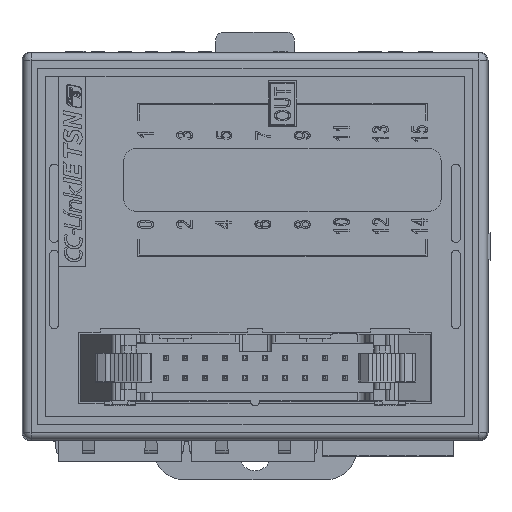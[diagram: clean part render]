
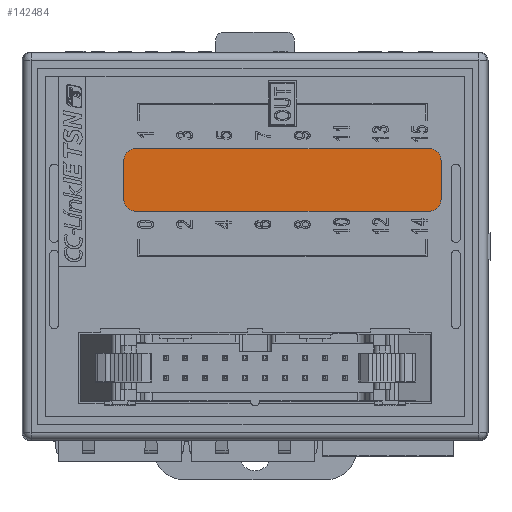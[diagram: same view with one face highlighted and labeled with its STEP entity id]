
A CAD part, top view. The second image highlights one B-rep face of the part: STEP entity #142484.
In plain terms, the highlighted planar face has unit normal (0, 0, 1).
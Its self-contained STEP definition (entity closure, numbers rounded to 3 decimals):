
#40429=DIRECTION('',(-1.,0.,0.));
#40430=VECTOR('',#40429,37.5);
#40431=CARTESIAN_POINT('',(22.25,12.5,30.9));
#40432=LINE('',#40431,#40430);
#40433=CARTESIAN_POINT('',(22.25,11.,30.9));
#40434=DIRECTION('',(0.,0.,1.));
#40435=DIRECTION('',(1.,0.,0.));
#40436=AXIS2_PLACEMENT_3D('',#40433,#40434,#40435);
#40438=DIRECTION('',(0.,1.,0.));
#40439=VECTOR('',#40438,5.);
#40440=CARTESIAN_POINT('',(23.75,6.,30.9));
#40441=LINE('',#40440,#40439);
#40442=CARTESIAN_POINT('',(22.25,6.,30.9));
#40443=DIRECTION('',(0.,0.,1.));
#40444=DIRECTION('',(0.,-1.,0.));
#40445=AXIS2_PLACEMENT_3D('',#40442,#40443,#40444);
#40447=DIRECTION('',(1.,0.,0.));
#40448=VECTOR('',#40447,37.5);
#40449=CARTESIAN_POINT('',(-15.25,4.5,30.9));
#40450=LINE('',#40449,#40448);
#40451=CARTESIAN_POINT('',(-15.25,6.,30.9));
#40452=DIRECTION('',(0.,0.,1.));
#40453=DIRECTION('',(-1.,0.,0.));
#40454=AXIS2_PLACEMENT_3D('',#40451,#40452,#40453);
#40456=DIRECTION('',(0.,-1.,0.));
#40457=VECTOR('',#40456,5.);
#40458=CARTESIAN_POINT('',(-16.75,11.,30.9));
#40459=LINE('',#40458,#40457);
#40460=CARTESIAN_POINT('',(-15.25,11.,30.9));
#40461=DIRECTION('',(0.,0.,1.));
#40462=DIRECTION('',(0.,1.,0.));
#40463=AXIS2_PLACEMENT_3D('',#40460,#40461,#40462);
#54853=CARTESIAN_POINT('',(-15.25,12.5,30.9));
#54854=VERTEX_POINT('',#54853);
#54855=CARTESIAN_POINT('',(22.25,12.5,30.9));
#54856=VERTEX_POINT('',#54855);
#54857=CARTESIAN_POINT('',(23.75,11.,30.9));
#54858=VERTEX_POINT('',#54857);
#54859=CARTESIAN_POINT('',(23.75,6.,30.9));
#54860=VERTEX_POINT('',#54859);
#54861=CARTESIAN_POINT('',(22.25,4.5,30.9));
#54862=VERTEX_POINT('',#54861);
#54863=CARTESIAN_POINT('',(-15.25,4.5,30.9));
#54864=VERTEX_POINT('',#54863);
#54865=CARTESIAN_POINT('',(-16.75,6.,30.9));
#54866=VERTEX_POINT('',#54865);
#54867=CARTESIAN_POINT('',(-16.75,11.,30.9));
#54868=VERTEX_POINT('',#54867);
#142469=CARTESIAN_POINT('',(3.5,8.5,30.9));
#142470=DIRECTION('',(0.,0.,1.));
#142471=DIRECTION('',(1.,0.,0.));
#142472=AXIS2_PLACEMENT_3D('',#142469,#142470,#142471);
#142473=PLANE('',#142472);
#142474=ORIENTED_EDGE('',*,*,#142309,.F.);
#142475=ORIENTED_EDGE('',*,*,#142331,.F.);
#142476=ORIENTED_EDGE('',*,*,#142352,.F.);
#142477=ORIENTED_EDGE('',*,*,#142373,.F.);
#142478=ORIENTED_EDGE('',*,*,#142394,.F.);
#142479=ORIENTED_EDGE('',*,*,#142415,.F.);
#142480=ORIENTED_EDGE('',*,*,#142436,.F.);
#142481=ORIENTED_EDGE('',*,*,#142456,.F.);
#142482=EDGE_LOOP('',(#142474,#142475,#142476,#142477,#142478,#142479,#142480,
#142481));
#142483=FACE_OUTER_BOUND('',#142482,.F.);
#142484=ADVANCED_FACE('',(#142483),#142473,.T.);
#40437=CIRCLE('',#40436,1.5);
#40446=CIRCLE('',#40445,1.5);
#40455=CIRCLE('',#40454,1.5);
#40464=CIRCLE('',#40463,1.5);
#142309=EDGE_CURVE('',#54856,#54854,#40432,.T.);
#142331=EDGE_CURVE('',#54858,#54856,#40437,.T.);
#142352=EDGE_CURVE('',#54860,#54858,#40441,.T.);
#142373=EDGE_CURVE('',#54862,#54860,#40446,.T.);
#142394=EDGE_CURVE('',#54864,#54862,#40450,.T.);
#142415=EDGE_CURVE('',#54866,#54864,#40455,.T.);
#142436=EDGE_CURVE('',#54868,#54866,#40459,.T.);
#142456=EDGE_CURVE('',#54854,#54868,#40464,.T.);
